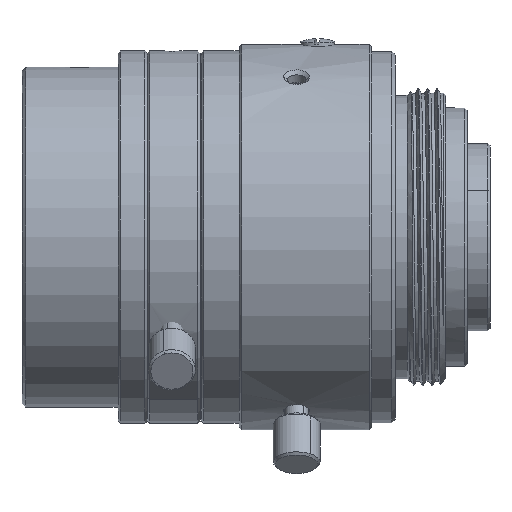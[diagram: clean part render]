
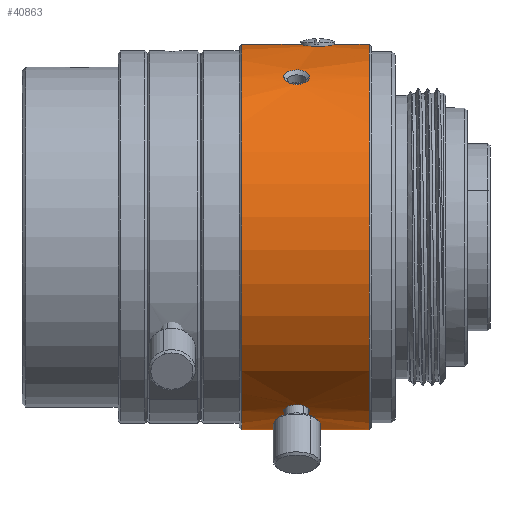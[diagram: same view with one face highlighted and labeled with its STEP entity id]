
A CAD part, left-side view. The second image highlights one B-rep face of the part: STEP entity #40863.
In plain terms, the highlighted cylindrical face has radius 16.5 mm (diameter 33 mm), a partial arc.
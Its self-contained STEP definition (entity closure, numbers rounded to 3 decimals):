
#38760=CARTESIAN_POINT('',(-8.25,-6.,
14.289));
#38761=CARTESIAN_POINT('',(-8.335,-6.,
14.24));
#38762=CARTESIAN_POINT('',(-8.505,-5.974,
14.14));
#38763=CARTESIAN_POINT('',(-8.741,-5.861,
13.995));
#38764=CARTESIAN_POINT('',(-8.939,-5.681,
13.869));
#38765=CARTESIAN_POINT('',(-9.089,-5.449,
13.771));
#38766=CARTESIAN_POINT('',(-9.181,-5.182,
13.71));
#38767=CARTESIAN_POINT('',(-9.212,-4.897,
13.689));
#38768=CARTESIAN_POINT('',(-9.18,-4.612,
13.711));
#38769=CARTESIAN_POINT('',(-9.086,-4.345,
13.773));
#38770=CARTESIAN_POINT('',(-8.936,-4.115,
13.871));
#38771=CARTESIAN_POINT('',(-8.736,-3.936,
13.998));
#38772=CARTESIAN_POINT('',(-8.499,-3.824,
14.144));
#38773=CARTESIAN_POINT('',(-8.332,-3.799,
14.242));
#38774=CARTESIAN_POINT('',(-8.25,-3.8,
14.289));
#38776=CARTESIAN_POINT('',(-8.25,-3.8,
14.289));
#38777=CARTESIAN_POINT('',(-8.165,-3.8,
14.339));
#38778=CARTESIAN_POINT('',(-7.993,-3.826,
14.436));
#38779=CARTESIAN_POINT('',(-7.75,-3.939,
14.568));
#38780=CARTESIAN_POINT('',(-7.542,-4.119,
14.676));
#38781=CARTESIAN_POINT('',(-7.382,-4.35,
14.757));
#38782=CARTESIAN_POINT('',(-7.283,-4.618,
14.806));
#38783=CARTESIAN_POINT('',(-7.249,-4.903,
14.822));
#38784=CARTESIAN_POINT('',(-7.284,-5.188,
14.805));
#38785=CARTESIAN_POINT('',(-7.385,-5.455,
14.755));
#38786=CARTESIAN_POINT('',(-7.545,-5.685,
14.675));
#38787=CARTESIAN_POINT('',(-7.755,-5.864,
14.565));
#38788=CARTESIAN_POINT('',(-7.999,-5.976,
14.432));
#38789=CARTESIAN_POINT('',(-8.168,-6.001,
14.337));
#38790=CARTESIAN_POINT('',(-8.25,-6.,
14.289));
#38792=CARTESIAN_POINT('',(-8.25,-6.,
-14.289));
#38793=CARTESIAN_POINT('',(-8.165,-6.,
-14.339));
#38794=CARTESIAN_POINT('',(-7.993,-5.974,
-14.436));
#38795=CARTESIAN_POINT('',(-7.75,-5.861,
-14.568));
#38796=CARTESIAN_POINT('',(-7.542,-5.681,
-14.676));
#38797=CARTESIAN_POINT('',(-7.382,-5.45,
-14.757));
#38798=CARTESIAN_POINT('',(-7.283,-5.182,
-14.806));
#38799=CARTESIAN_POINT('',(-7.249,-4.897,
-14.822));
#38800=CARTESIAN_POINT('',(-7.284,-4.612,
-14.805));
#38801=CARTESIAN_POINT('',(-7.385,-4.345,
-14.755));
#38802=CARTESIAN_POINT('',(-7.545,-4.115,
-14.675));
#38803=CARTESIAN_POINT('',(-7.755,-3.936,
-14.565));
#38804=CARTESIAN_POINT('',(-7.999,-3.824,
-14.432));
#38805=CARTESIAN_POINT('',(-8.168,-3.799,
-14.337));
#38806=CARTESIAN_POINT('',(-8.25,-3.8,
-14.289));
#38808=CARTESIAN_POINT('',(-8.25,-3.8,
-14.289));
#38809=CARTESIAN_POINT('',(-8.335,-3.8,
-14.24));
#38810=CARTESIAN_POINT('',(-8.506,-3.826,
-14.14));
#38811=CARTESIAN_POINT('',(-8.741,-3.939,
-13.995));
#38812=CARTESIAN_POINT('',(-8.939,-4.119,
-13.869));
#38813=CARTESIAN_POINT('',(-9.089,-4.351,
-13.771));
#38814=CARTESIAN_POINT('',(-9.181,-4.618,
-13.71));
#38815=CARTESIAN_POINT('',(-9.212,-4.903,
-13.689));
#38816=CARTESIAN_POINT('',(-9.18,-5.188,
-13.711));
#38817=CARTESIAN_POINT('',(-9.086,-5.455,
-13.773));
#38818=CARTESIAN_POINT('',(-8.936,-5.685,
-13.871));
#38819=CARTESIAN_POINT('',(-8.736,-5.864,
-13.998));
#38820=CARTESIAN_POINT('',(-8.499,-5.976,
-14.144));
#38821=CARTESIAN_POINT('',(-8.332,-6.001,
-14.242));
#38822=CARTESIAN_POINT('',(-8.25,-6.,
-14.289));
#38824=CARTESIAN_POINT('',(0.,-0.2,0.));
#38825=DIRECTION('',(0.,1.,0.));
#38826=DIRECTION('',(0.,0.,-1.));
#38827=AXIS2_PLACEMENT_3D('',#38824,#38825,#38826);
#38829=DIRECTION('',(0.,1.,0.));
#38830=VECTOR('',#38829,5.);
#38831=CARTESIAN_POINT('',(0.,-5.2,16.5));
#38832=LINE('',#38831,#38830);
#38833=CARTESIAN_POINT('',(0.,-8.2,16.5));
#38834=CARTESIAN_POINT('',(-0.104,-8.2,16.5));
#38835=CARTESIAN_POINT('',(-0.308,-8.179,
16.498));
#38836=CARTESIAN_POINT('',(-0.606,-8.084,
16.49));
#38837=CARTESIAN_POINT('',(-0.877,-7.93,
16.477));
#38838=CARTESIAN_POINT('',(-1.11,-7.725,
16.463));
#38839=CARTESIAN_POINT('',(-1.298,-7.473,
16.449));
#38840=CARTESIAN_POINT('',(-1.429,-7.191,
16.438));
#38841=CARTESIAN_POINT('',(-1.5,-6.88,
16.432));
#38842=CARTESIAN_POINT('',(-1.505,-6.564,
16.431));
#38843=CARTESIAN_POINT('',(-1.442,-6.248,
16.437));
#38844=CARTESIAN_POINT('',(-1.316,-5.957,
16.448));
#38845=CARTESIAN_POINT('',(-1.13,-5.696,
16.462));
#38846=CARTESIAN_POINT('',(-0.895,-5.483,
16.476));
#38847=CARTESIAN_POINT('',(-0.619,-5.321,
16.489));
#38848=CARTESIAN_POINT('',(-0.315,-5.222,
16.498));
#38849=CARTESIAN_POINT('',(-0.107,-5.2,16.5));
#38850=CARTESIAN_POINT('',(0.,-5.2,16.5));
#38852=DIRECTION('',(0.,1.,0.));
#38853=VECTOR('',#38852,2.9);
#38854=CARTESIAN_POINT('',(0.,-11.1,
16.5));
#38855=LINE('',#38854,#38853);
#38856=CARTESIAN_POINT('',(0.,-11.1,0.));
#38857=DIRECTION('',(0.,1.,0.));
#38858=DIRECTION('',(0.,0.,-1.));
#38859=AXIS2_PLACEMENT_3D('',#38856,#38857,#38858);
#38861=DIRECTION('',(0.,1.,0.));
#38862=VECTOR('',#38861,10.9);
#38863=CARTESIAN_POINT('',(0.,-11.1,
-16.5));
#38864=LINE('',#38863,#38862);
#40432=CARTESIAN_POINT('',(0.,-5.2,16.5));
#40449=CARTESIAN_POINT('',(0.,-8.2,16.5));
#40667=CARTESIAN_POINT('',(0.,-0.2,16.5));
#40668=CARTESIAN_POINT('',(0.,-0.2,-16.5));
#40669=VERTEX_POINT('',#40667);
#40670=VERTEX_POINT('',#40668);
#40671=CARTESIAN_POINT('',(0.,-11.1,16.5));
#40672=CARTESIAN_POINT('',(0.,-11.1,-16.5));
#40673=VERTEX_POINT('',#40671);
#40674=VERTEX_POINT('',#40672);
#40723=VERTEX_POINT('',#38760);
#40724=VERTEX_POINT('',#38774);
#40729=VERTEX_POINT('',#38792);
#40730=VERTEX_POINT('',#38806);
#40740=VERTEX_POINT('',#40432);
#40741=VERTEX_POINT('',#40449);
#40833=CARTESIAN_POINT('',(0.,0.565,0.));
#40834=DIRECTION('',(0.,-1.,0.));
#40835=DIRECTION('',(0.,0.,1.));
#40836=AXIS2_PLACEMENT_3D('',#40833,#40834,#40835);
#40837=CYLINDRICAL_SURFACE('',#40836,16.5);
#40838=ORIENTED_EDGE('',*,*,#40827,.T.);
#40840=ORIENTED_EDGE('',*,*,#40839,.F.);
#40842=ORIENTED_EDGE('',*,*,#40841,.F.);
#40844=ORIENTED_EDGE('',*,*,#40843,.F.);
#40846=ORIENTED_EDGE('',*,*,#40845,.F.);
#40848=ORIENTED_EDGE('',*,*,#40847,.T.);
#40849=EDGE_LOOP('',(#40838,#40840,#40842,#40844,#40846,#40848));
#40850=FACE_OUTER_BOUND('',#40849,.F.);
#40852=ORIENTED_EDGE('',*,*,#40851,.F.);
#40854=ORIENTED_EDGE('',*,*,#40853,.F.);
#40855=EDGE_LOOP('',(#40852,#40854));
#40856=FACE_BOUND('',#40855,.F.);
#40858=ORIENTED_EDGE('',*,*,#40857,.F.);
#40860=ORIENTED_EDGE('',*,*,#40859,.F.);
#40861=EDGE_LOOP('',(#40858,#40860));
#40862=FACE_BOUND('',#40861,.F.);
#40863=ADVANCED_FACE('',(#40850,#40856,#40862),#40837,.T.);
#38775=B_SPLINE_CURVE_WITH_KNOTS('',3,(#38760,#38761,#38762,#38763,#38764,
#38765,#38766,#38767,#38768,#38769,#38770,#38771,#38772,#38773,#38774),
.UNSPECIFIED.,.F.,.F.,(4,1,1,1,1,1,1,1,1,1,1,1,4),(0.,0.083,
0.167,0.25,0.333,0.417,
0.5,0.583,0.667,0.75,
0.833,0.917,1.),.UNSPECIFIED.);
#38791=B_SPLINE_CURVE_WITH_KNOTS('',3,(#38776,#38777,#38778,#38779,#38780,
#38781,#38782,#38783,#38784,#38785,#38786,#38787,#38788,#38789,#38790),
.UNSPECIFIED.,.F.,.F.,(4,1,1,1,1,1,1,1,1,1,1,1,4),(0.,0.083,
0.167,0.25,0.333,0.417,
0.5,0.583,0.667,0.75,
0.833,0.917,1.),.UNSPECIFIED.);
#38807=B_SPLINE_CURVE_WITH_KNOTS('',3,(#38792,#38793,#38794,#38795,#38796,
#38797,#38798,#38799,#38800,#38801,#38802,#38803,#38804,#38805,#38806),
.UNSPECIFIED.,.F.,.F.,(4,1,1,1,1,1,1,1,1,1,1,1,4),(0.,0.083,
0.167,0.25,0.333,0.417,
0.5,0.583,0.667,0.75,
0.833,0.917,1.),.UNSPECIFIED.);
#38823=B_SPLINE_CURVE_WITH_KNOTS('',3,(#38808,#38809,#38810,#38811,#38812,
#38813,#38814,#38815,#38816,#38817,#38818,#38819,#38820,#38821,#38822),
.UNSPECIFIED.,.F.,.F.,(4,1,1,1,1,1,1,1,1,1,1,1,4),(0.,0.083,
0.167,0.25,0.333,0.417,
0.5,0.583,0.667,0.75,
0.833,0.917,1.),.UNSPECIFIED.);
#38828=CIRCLE('',#38827,16.5);
#38851=B_SPLINE_CURVE_WITH_KNOTS('',3,(#38833,#38834,#38835,#38836,#38837,
#38838,#38839,#38840,#38841,#38842,#38843,#38844,#38845,#38846,#38847,#38848,
#38849,#38850),.UNSPECIFIED.,.F.,.F.,(4,1,1,1,1,1,1,1,1,1,1,1,1,1,1,4),(0.,
0.067,0.133,0.2,0.267,0.333,
0.4,0.467,0.533,0.6,0.667,
0.733,0.8,0.867,0.933,1.),
.UNSPECIFIED.);
#38860=CIRCLE('',#38859,16.5);
#40827=EDGE_CURVE('',#40670,#40669,#38828,.T.);
#40839=EDGE_CURVE('',#40740,#40669,#38832,.T.);
#40841=EDGE_CURVE('',#40741,#40740,#38851,.T.);
#40843=EDGE_CURVE('',#40673,#40741,#38855,.T.);
#40845=EDGE_CURVE('',#40674,#40673,#38860,.T.);
#40847=EDGE_CURVE('',#40674,#40670,#38864,.T.);
#40851=EDGE_CURVE('',#40729,#40730,#38807,.T.);
#40853=EDGE_CURVE('',#40730,#40729,#38823,.T.);
#40857=EDGE_CURVE('',#40723,#40724,#38775,.T.);
#40859=EDGE_CURVE('',#40724,#40723,#38791,.T.);
